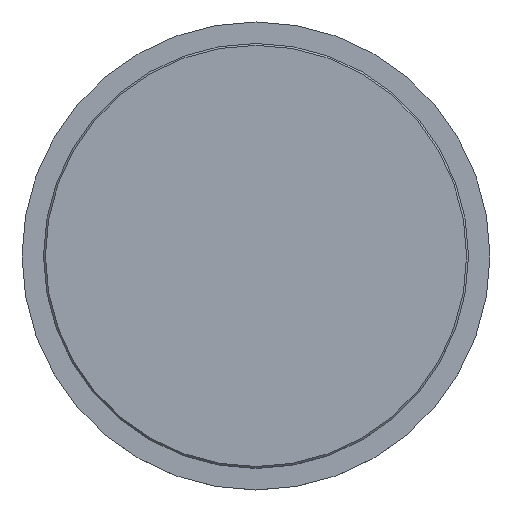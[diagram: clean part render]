
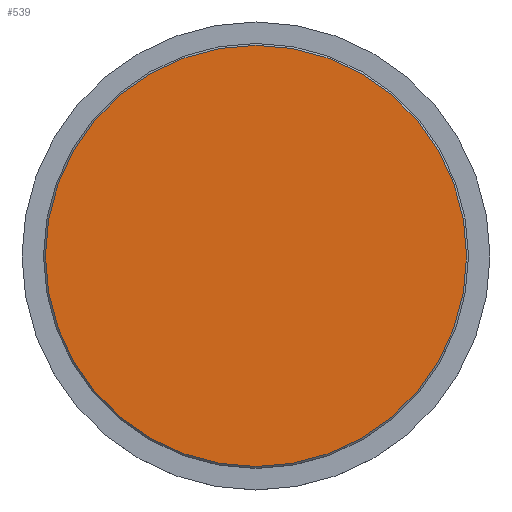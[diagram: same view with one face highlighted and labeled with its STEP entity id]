
A CAD part, top view. The second image highlights one B-rep face of the part: STEP entity #539.
In plain terms, the highlighted planar face has unit normal (0, 0, 1).
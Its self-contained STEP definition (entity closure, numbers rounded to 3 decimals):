
#539=ADVANCED_FACE('',(#596),#580,.T.);
#580=PLANE('',#1204);
#596=FACE_OUTER_BOUND('',#610,.T.);
#610=EDGE_LOOP('',(#685));
#685=ORIENTED_EDGE('',*,*,#1045,.T.);
#929=VERTEX_POINT('',#1474);
#1045=EDGE_CURVE('',#929,#929,#1167,.T.);
#1167=CIRCLE('',#1203,11.25);
#1203=AXIS2_PLACEMENT_3D('',#1473,#1281,#1282);
#1204=AXIS2_PLACEMENT_3D('',#1475,#1283,#1284);
#1281=DIRECTION('',(0.,0.,1.));
#1282=DIRECTION('',(0.,-1.,0.));
#1283=DIRECTION('',(0.,0.,1.));
#1284=DIRECTION('',(0.,-1.,0.));
#1473=CARTESIAN_POINT('',(0.,0.,0.3));
#1474=CARTESIAN_POINT('',(0.,-11.25,0.3));
#1475=CARTESIAN_POINT('',(0.,0.,0.3));
